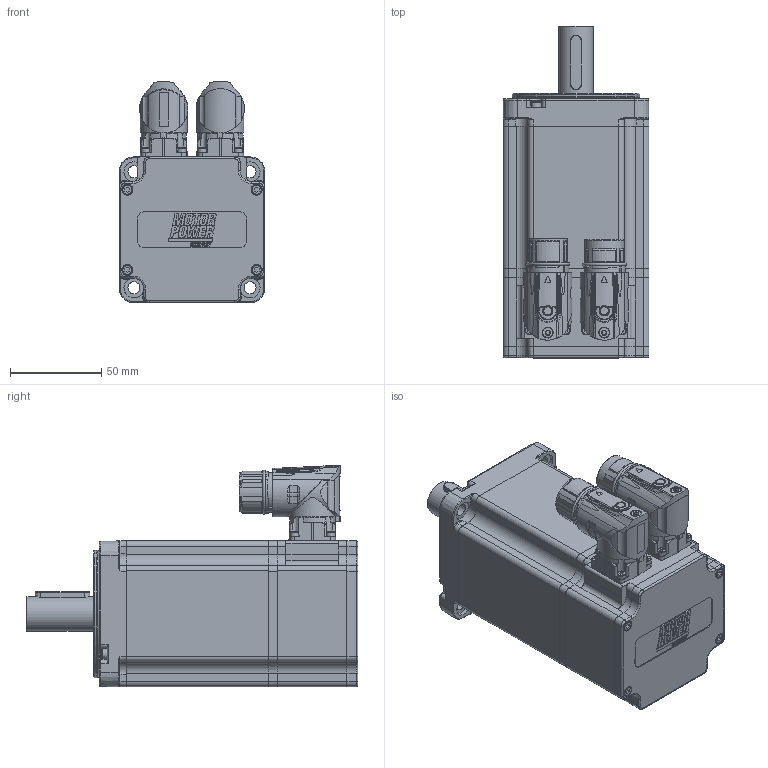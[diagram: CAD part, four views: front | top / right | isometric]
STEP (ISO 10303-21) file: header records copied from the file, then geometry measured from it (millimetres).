
FILE_DESCRIPTION(/* description */ ('Unknown'),/* implementation_level */ '2;1');
FILE_NAME(/* name */ 'TC4-80.3B.XX.X.3.M1.0.1.G2.33.80 Q0D209',/* time_stamp */ '2026-03-04T10:32:54+01:00',/* author */ ('Unknown'),/* organization */ ('Unknown'),/* preprocessor_version */ 'ST-DEVELOPER v19.4',/* originating_system */ 'Solid Edge',/* authorisation */ 'Unknown');
FILE_SCHEMA (('AUTOMOTIVE_DESIGN {1 0 10303 214 3 1 1}'));
Products named in the file (15): Q0D209 3B M1 VUOTO; 003151003147; 005911000201; 003107003286; 005911000192; 005113000500; 003155002234; 007117000454; 003103040148; 005911000185; 003003200455; 005119001500; 007117000456; 005911000202; 003251040719
Assembly tree (30 placements, depth 2):
  Q0D209 3B M1 VUOTO
    003151003147
    005911000201  x4
    003107003286
    005911000192  x4
    005113000500
    003155002234
    007117000454
    003103040148
    005911000185  x8
    003003200455
    005119001500
    007117000456
    005911000202  x4
    003251040719
Bounding box: 80 x 182 x 121.5 mm (x, y, z)
Volume: 379149.4 mm3; surface area: 177607.6 mm2
Topology: 32 solids, 32 shells, 2393 faces, 5941 edges, 3816 vertices
Faces by surface type: plane 1077, cylinder 560, bspline 338, cone 262, torus 127, sphere 29
Full cylindrical faces by diameter (mm): 0.5 x1, 1 x21, 1.2 x17, 1.4 x4, 2 x4, 2.013 x12, 2.459 x20, 2.5 x9, 2.8 x4, 3 x24, 3.2 x1, 3.5 x18, 4.5 x2, 4.7 x8, 4.917 x1, 5.5 x14, 5.8 x1, 5.9 x2, 6 x9, 6.4 x1, 6.6 x4, 6.8 x1, 7 x4, 10 x1, 11 x4, 15 x2, 15.2 x1, 17.4 x3, 18 x1, 19 x3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
Entity records: 85916 total; most frequent: CARTESIAN_POINT 24250, ORIENTED_EDGE 9822, DIRECTION 8948, EDGE_CURVE 4911, AXIS2_PLACEMENT_3D 3399, VERTEX_POINT 3386, FACE_BOUND 2845, EDGE_LOOP 2823
